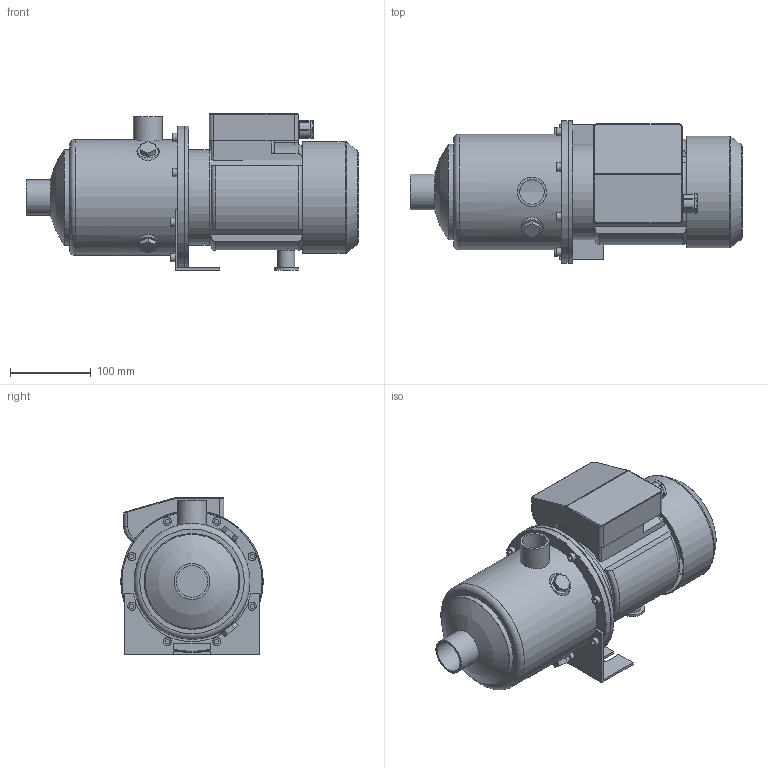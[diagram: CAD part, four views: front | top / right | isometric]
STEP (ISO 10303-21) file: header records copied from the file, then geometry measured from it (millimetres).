
FILE_DESCRIPTION(/* description */ ('Unknown'),/* implementation_level */ '2;1');
FILE_NAME(/* name */ 'MH 3 [5] M',/* time_stamp */ '2026-07-10T14:43:37+02:00',/* author */ ('Unknown'),/* organization */ ('Unknown'),/* preprocessor_version */ 'ST-DEVELOPER v20',/* originating_system */ 'Solid Edge',/* authorisation */ 'Unknown');
FILE_SCHEMA (('AUTOMOTIVE_DESIGN {1 0 10303 214 3 1 1}'));
Length unit declared in the file: millimetre
Products named in the file (10): MH 3 [5] M; Flangia motore Tonda M71; Corpo MH 3-5 [5]; Mot_Wendy_MEC71_055-075_M; carcassa MEC 71-M_Wendy; Copriventola MEC 71-Wendy; Basetta MEC 71 M-Wendy_new; 1; Piedino MEC 71 int.90; Staffa 3-5-9 int.90
Assembly tree (9 placements, depth 3):
  MH 3 [5] M
    Flangia motore Tonda M71
    Corpo MH 3-5 [5]
    Mot_Wendy_MEC71_055-075_M
      carcassa MEC 71-M_Wendy
      Copriventola MEC 71-Wendy
      Basetta MEC 71 M-Wendy_new
      1
    Piedino MEC 71 int.90
    Staffa 3-5-9 int.90
Bounding box: 411 x 176.5 x 193.5 mm (x, y, z)
Volume: 1733351.7 mm3; surface area: 527376.6 mm2
Topology: 8 solids, 8 shells, 287 faces, 674 edges, 445 vertices
Faces by surface type: plane 169, cylinder 81, torus 19, cone 14, sphere 2, bspline 2
Full cylindrical faces by diameter (mm): 7 x4, 10 x9, 12 x1, 15 x1, 16.5 x1, 21 x1, 30 x1, 30.291 x1, 36 x1, 38.952 x1, 44.5 x1, 110 x1, 114 x3, 116.1 x1, 118 x2, 118.5 x1, 136.5 x1, 138.5 x1, 141.1 x1, 143.5 x1, 173.5 x1, 174.1 x1, 176.5 x2
Entity records: 9252 total; most frequent: CARTESIAN_POINT 1708, DIRECTION 1328, ORIENTED_EDGE 1176, EDGE_CURVE 588, AXIS2_PLACEMENT_3D 491, VERTEX_POINT 415, EDGE_LOOP 395, FACE_BOUND 395
